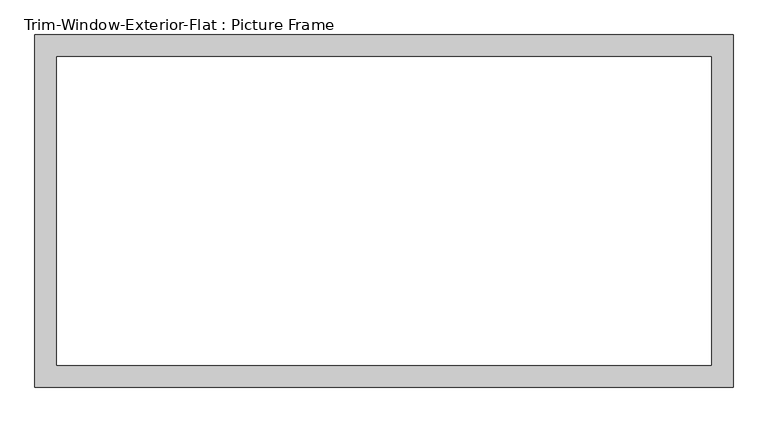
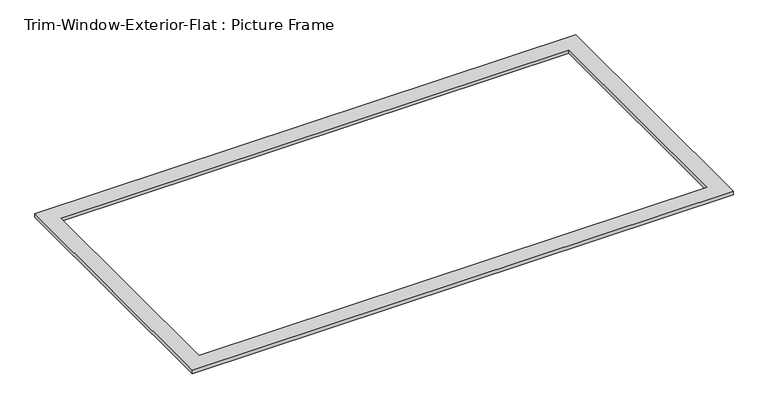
"""IFC4 building model written with IfcOpenShell, lengths in millimetres: proxy geometry, Trim-Window-Exterior-Flat : Picture Frame."""

from ifc_helpers import new_model, si_unit, origin, origin_with_axes, place, context, project, spatial, polyline, outline, extrude, source, transform, mapped, element, save


def trim_window_exterior_flat_picture_frame_de25a127(model_context):
    return source(origin(), model_context, "Body", "SweptSolid", [
        extrude(outline(polyline([(1435.1, 88.9), (1435.1, -1358.9), (-1435.1, -1358.9), (-1435.1, 88.9), (1435.1, 88.9)]), holes=[polyline([(1346.2, 0.0), (-1346.2, 0.0), (-1346.2, -1270.0), (1346.2, -1270.0), (1346.2, 0.0)])]), origin_with_axes(), (0.0, 0.0, 1.0), 19.05),
    ])


if __name__ == "__main__":
    model = new_model("IFC4")
    model_context = context("Model", 3, world=origin())
    ifc_project = project(units=[si_unit("LENGTHUNIT", "METRE", prefix="MILLI")], contexts=[model_context])
    site = spatial("IfcSite", under=ifc_project)
    building = spatial("IfcBuilding", under=site)
    placement = place(None, origin())
    trim_window_exterior_flat_picture_frame_shape = trim_window_exterior_flat_picture_frame_de25a127(model_context)
    element("IfcBuildingElementProxy", 1, Name="Trim-Window-Exterior-Flat : Picture Frame", ObjectType="Trim-Window-Exterior-Flat : Picture Frame", at=placement, inside=building, context=model_context, shape_type="MappedRepresentation", body=[
        mapped(trim_window_exterior_flat_picture_frame_shape, transform((0.0, 0.0, 0.0), x_axis=(1.0, 0.0, 0.0), y_axis=(0.0, 1.0, 0.0), z_axis=(0.0, 0.0, 1.0))),
    ])
    save(model, "model.ifc")
